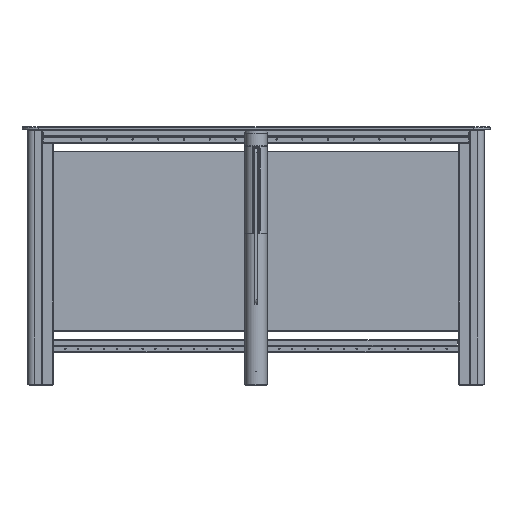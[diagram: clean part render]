
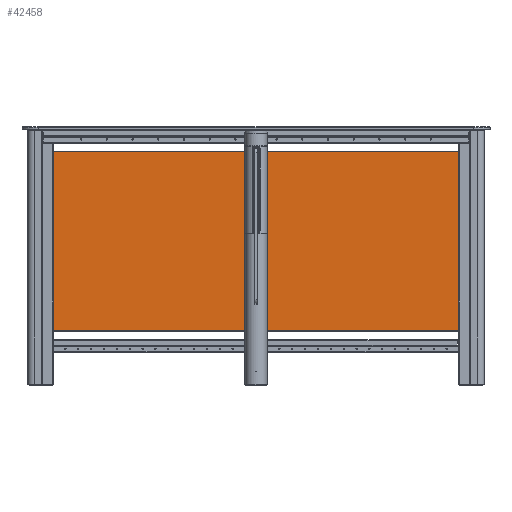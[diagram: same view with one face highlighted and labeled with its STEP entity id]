
A CAD part, left-side view. The second image highlights one B-rep face of the part: STEP entity #42458.
In plain terms, the highlighted planar face has unit normal (-1, 0, 0) as drawn and (0, 0, -1) by its records, which use the part's own axes.
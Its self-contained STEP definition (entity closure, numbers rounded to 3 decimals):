
#6001=LINE('',#72965,#10390);
#6002=LINE('',#72970,#10391);
#6003=LINE('',#72974,#10392);
#6004=LINE('',#72978,#10393);
#10390=VECTOR('',#56837,1000.);
#10391=VECTOR('',#56840,1000.);
#10392=VECTOR('',#56843,1000.);
#10393=VECTOR('',#56846,1000.);
#21168=ORIENTED_EDGE('',*,*,#27559,.T.);
#21169=ORIENTED_EDGE('',*,*,#27560,.T.);
#21170=ORIENTED_EDGE('',*,*,#27561,.T.);
#21171=ORIENTED_EDGE('',*,*,#27562,.T.);
#21172=ORIENTED_EDGE('',*,*,#27563,.T.);
#21173=ORIENTED_EDGE('',*,*,#27564,.T.);
#21174=ORIENTED_EDGE('',*,*,#27565,.T.);
#21175=ORIENTED_EDGE('',*,*,#27566,.T.);
#21176=ORIENTED_EDGE('',*,*,#27567,.T.);
#21177=ORIENTED_EDGE('',*,*,#27568,.T.);
#21178=ORIENTED_EDGE('',*,*,#27569,.T.);
#21179=ORIENTED_EDGE('',*,*,#27570,.T.);
#21180=ORIENTED_EDGE('',*,*,#27571,.T.);
#21181=ORIENTED_EDGE('',*,*,#27572,.T.);
#27559=EDGE_CURVE('',#31549,#31550,#6001,.T.);
#27560=EDGE_CURVE('',#31550,#31551,#32814,.T.);
#27561=EDGE_CURVE('',#31551,#31552,#6002,.T.);
#27562=EDGE_CURVE('',#31552,#31553,#32815,.T.);
#27563=EDGE_CURVE('',#31553,#31554,#6003,.T.);
#27564=EDGE_CURVE('',#31554,#31555,#32816,.T.);
#27565=EDGE_CURVE('',#31555,#31556,#6004,.T.);
#27566=EDGE_CURVE('',#31556,#31549,#32817,.T.);
#27567=EDGE_CURVE('',#31557,#31557,#32818,.F.);
#27568=EDGE_CURVE('',#31558,#31558,#32819,.F.);
#27569=EDGE_CURVE('',#31559,#31559,#32820,.F.);
#27570=EDGE_CURVE('',#31560,#31560,#32821,.F.);
#27571=EDGE_CURVE('',#31561,#31561,#32822,.F.);
#27572=EDGE_CURVE('',#31562,#31562,#32823,.F.);
#31549=VERTEX_POINT('',#72966);
#31550=VERTEX_POINT('',#72967);
#31551=VERTEX_POINT('',#72969);
#31552=VERTEX_POINT('',#72971);
#31553=VERTEX_POINT('',#72973);
#31554=VERTEX_POINT('',#72975);
#31555=VERTEX_POINT('',#72977);
#31556=VERTEX_POINT('',#72979);
#31557=VERTEX_POINT('',#72982);
#31558=VERTEX_POINT('',#72984);
#31559=VERTEX_POINT('',#72986);
#31560=VERTEX_POINT('',#72988);
#31561=VERTEX_POINT('',#72990);
#31562=VERTEX_POINT('',#72992);
#32814=CIRCLE('',#46430,14.);
#32815=CIRCLE('',#46431,14.);
#32816=CIRCLE('',#46432,14.);
#32817=CIRCLE('',#46433,14.);
#32818=CIRCLE('',#46434,7.);
#32819=CIRCLE('',#46435,7.);
#32820=CIRCLE('',#46436,7.);
#32821=CIRCLE('',#46437,7.);
#32822=CIRCLE('',#46438,7.);
#32823=CIRCLE('',#46439,7.);
#35585=EDGE_LOOP('',(#21168,#21169,#21170,#21171,#21172,#21173,#21174,#21175));
#35586=EDGE_LOOP('',(#21176));
#35587=EDGE_LOOP('',(#21177));
#35588=EDGE_LOOP('',(#21178));
#35589=EDGE_LOOP('',(#21179));
#35590=EDGE_LOOP('',(#21180));
#35591=EDGE_LOOP('',(#21181));
#38544=FACE_BOUND('',#35585,.T.);
#38545=FACE_BOUND('',#35586,.T.);
#38546=FACE_BOUND('',#35587,.T.);
#38547=FACE_BOUND('',#35588,.T.);
#38548=FACE_BOUND('',#35589,.T.);
#38549=FACE_BOUND('',#35590,.T.);
#38550=FACE_BOUND('',#35591,.T.);
#40276=PLANE('',#46429);
#42458=ADVANCED_FACE('',(#38544,#38545,#38546,#38547,#38548,#38549,#38550),
#40276,.T.);
#46429=AXIS2_PLACEMENT_3D('',#72964,#56835,#56836);
#46430=AXIS2_PLACEMENT_3D('',#72968,#56838,#56839);
#46431=AXIS2_PLACEMENT_3D('',#72972,#56841,#56842);
#46432=AXIS2_PLACEMENT_3D('',#72976,#56844,#56845);
#46433=AXIS2_PLACEMENT_3D('',#72980,#56847,#56848);
#46434=AXIS2_PLACEMENT_3D('',#72981,#56849,#56850);
#46435=AXIS2_PLACEMENT_3D('',#72983,#56851,#56852);
#46436=AXIS2_PLACEMENT_3D('',#72985,#56853,#56854);
#46437=AXIS2_PLACEMENT_3D('',#72987,#56855,#56856);
#46438=AXIS2_PLACEMENT_3D('',#72989,#56857,#56858);
#46439=AXIS2_PLACEMENT_3D('',#72991,#56859,#56860);
#56835=DIRECTION('',(0.,0.,-1.));
#56836=DIRECTION('',(-1.,0.,0.));
#56837=DIRECTION('',(1.,0.,0.));
#56838=DIRECTION('',(0.,0.,-1.));
#56839=DIRECTION('',(-1.,0.,0.));
#56840=DIRECTION('',(0.,-1.,0.));
#56841=DIRECTION('',(0.,0.,-1.));
#56842=DIRECTION('',(-1.,0.,0.));
#56843=DIRECTION('',(-1.,0.,0.));
#56844=DIRECTION('',(0.,0.,-1.));
#56845=DIRECTION('',(-1.,0.,0.));
#56846=DIRECTION('',(0.,1.,0.));
#56847=DIRECTION('',(0.,0.,-1.));
#56848=DIRECTION('',(-1.,0.,0.));
#56849=DIRECTION('',(0.,0.,-1.));
#56850=DIRECTION('',(-1.,0.,0.));
#56851=DIRECTION('',(0.,0.,-1.));
#56852=DIRECTION('',(-1.,0.,0.));
#56853=DIRECTION('',(0.,0.,-1.));
#56854=DIRECTION('',(-1.,0.,0.));
#56855=DIRECTION('',(0.,0.,-1.));
#56856=DIRECTION('',(-1.,0.,0.));
#56857=DIRECTION('',(0.,0.,-1.));
#56858=DIRECTION('',(-1.,0.,0.));
#56859=DIRECTION('',(0.,0.,-1.));
#56860=DIRECTION('',(-1.,0.,0.));
#72964=CARTESIAN_POINT('',(850.,350.,-4.));
#72965=CARTESIAN_POINT('',(850.,349.,-4.));
#72966=CARTESIAN_POINT('',(-835.,349.,-4.));
#72967=CARTESIAN_POINT('',(835.,349.,-4.));
#72968=CARTESIAN_POINT('',(835.,335.,-4.));
#72969=CARTESIAN_POINT('',(849.,335.,-4.));
#72970=CARTESIAN_POINT('',(849.,350.,-4.));
#72971=CARTESIAN_POINT('',(849.,-335.,-4.));
#72972=CARTESIAN_POINT('',(835.,-335.,-4.));
#72973=CARTESIAN_POINT('',(835.,-349.,-4.));
#72974=CARTESIAN_POINT('',(850.,-349.,-4.));
#72975=CARTESIAN_POINT('',(-835.,-349.,-4.));
#72976=CARTESIAN_POINT('',(-835.,-335.,-4.));
#72977=CARTESIAN_POINT('',(-849.,-335.,-4.));
#72978=CARTESIAN_POINT('',(-849.,350.,-4.));
#72979=CARTESIAN_POINT('',(-849.,335.,-4.));
#72980=CARTESIAN_POINT('',(-835.,335.,-4.));
#72981=CARTESIAN_POINT('',(825.,-250.,-4.));
#72982=CARTESIAN_POINT('',(818.,-250.,-4.));
#72983=CARTESIAN_POINT('',(825.,250.,-4.));
#72984=CARTESIAN_POINT('',(818.,250.,-4.));
#72985=CARTESIAN_POINT('',(-825.,250.,-4.));
#72986=CARTESIAN_POINT('',(-832.,250.,-4.));
#72987=CARTESIAN_POINT('',(-825.,-250.,-4.));
#72988=CARTESIAN_POINT('',(-832.,-250.,-4.));
#72989=CARTESIAN_POINT('',(0.,200.,-4.));
#72990=CARTESIAN_POINT('',(-7.,200.,-4.));
#72991=CARTESIAN_POINT('',(0.,-200.,-4.));
#72992=CARTESIAN_POINT('',(-7.,-200.,-4.));
